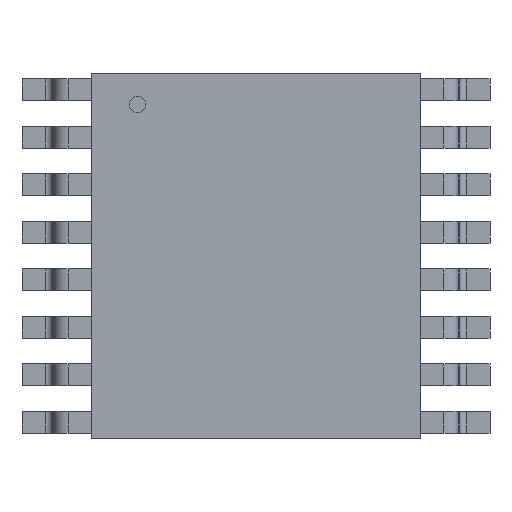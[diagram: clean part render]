
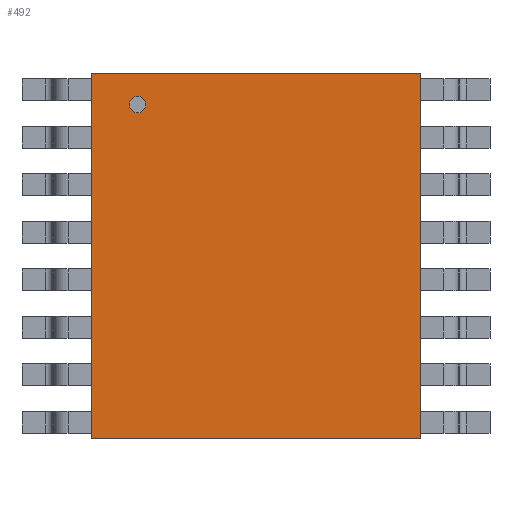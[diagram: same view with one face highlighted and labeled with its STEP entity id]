
A CAD part, top view. The second image highlights one B-rep face of the part: STEP entity #492.
In plain terms, the highlighted planar face has unit normal (0, 0, 1).
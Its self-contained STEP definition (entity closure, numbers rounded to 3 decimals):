
#268=CARTESIAN_POINT('',(2.25,-2.5,1.2));
#267=VERTEX_POINT('',#268);
#278=CARTESIAN_POINT('',(-2.25,-2.5,1.2));
#277=VERTEX_POINT('',#278);
#276=EDGE_CURVE('',#277,#267,#281,.T.);
#281=LINE('',#278,#283);
#283=VECTOR('',#284,4.5);
#284=DIRECTION('',(1.0,0.0,0.0));
#317=CARTESIAN_POINT('',(2.25,2.5,1.2));
#316=VERTEX_POINT('',#317);
#325=EDGE_CURVE('',#267,#316,#330,.T.);
#330=LINE('',#268,#332);
#332=VECTOR('',#333,5.);
#333=DIRECTION('',(0.0,1.0,0.0));
#366=CARTESIAN_POINT('',(-2.25,2.5,1.2));
#365=VERTEX_POINT('',#366);
#374=EDGE_CURVE('',#316,#365,#379,.T.);
#379=LINE('',#317,#381);
#381=VECTOR('',#382,4.5);
#382=DIRECTION('',(-1.0,0.0,0.0));
#423=EDGE_CURVE('',#365,#277,#428,.T.);
#428=LINE('',#366,#430);
#430=VECTOR('',#431,5.);
#431=DIRECTION('',(0.0,-1.0,0.0));
#492=ADVANCED_FACE('',(#498),#493,.T.);
#493=PLANE('',#494);
#494=AXIS2_PLACEMENT_3D('',#495,#496,#497);
#495=CARTESIAN_POINT('',(-2.25,-2.5,1.2));
#496=DIRECTION('',(0.0,0.0,1.0));
#497=DIRECTION('',(0.,1.,0.));
#498=FACE_OUTER_BOUND('',#499,.T.);
#499=EDGE_LOOP('',(#500,#510,#520,#530));
#500=ORIENTED_EDGE('',*,*,#276,.T.);
#510=ORIENTED_EDGE('',*,*,#325,.T.);
#520=ORIENTED_EDGE('',*,*,#374,.T.);
#530=ORIENTED_EDGE('',*,*,#423,.T.);
